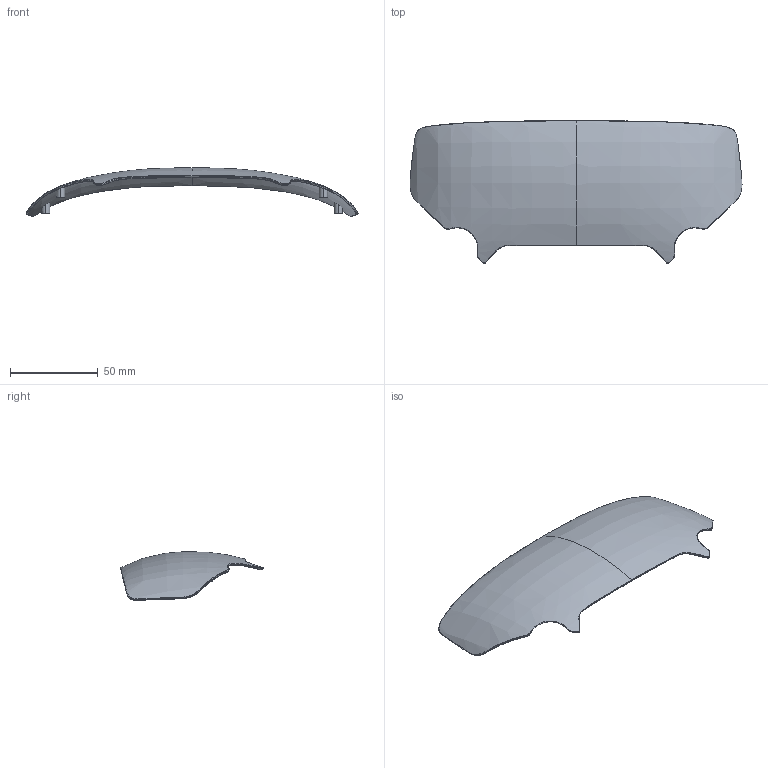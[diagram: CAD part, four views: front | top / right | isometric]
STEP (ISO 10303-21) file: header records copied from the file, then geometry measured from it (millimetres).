
FILE_DESCRIPTION((''),'2;1');
FILE_NAME('INDEX_HMD_VISOR_ASM','2019-05-01T',('carlc'),(''),'CREO PARAMETRIC BY PTC INC, 2016380','CREO PARAMETRIC BY PTC INC, 2016380','');
FILE_SCHEMA(('CONFIG_CONTROL_DESIGN'));
Length unit declared in the file: millimetre
Products named in the file (3): MAGNET_VISOR; INDEX_VISOR; INDEX_HMD_VISOR_ASM
Assembly tree (5 placements, depth 2):
  INDEX_HMD_VISOR_ASM
    MAGNET_VISOR  x4
    INDEX_VISOR
Bounding box: 189.46 x 81.38 x 27.84 mm (x, y, z)
Volume: 16479.9 mm3; surface area: 27177.9 mm2
Topology: 5 solids, 5 shells, 152 faces, 326 edges, 192 vertices
Faces by surface type: bspline 112, cylinder 28, plane 12
Entity records: 25732 total; most frequent: CARTESIAN_POINT 22439, ORIENTED_EDGE 616, PRESENTATION_STYLE_ASSIGNMENT 310, STYLED_ITEM 310, CURVE_STYLE 308, EDGE_CURVE 308, B_SPLINE_CURVE_WITH_KNOTS 240, VERTEX_POINT 180
